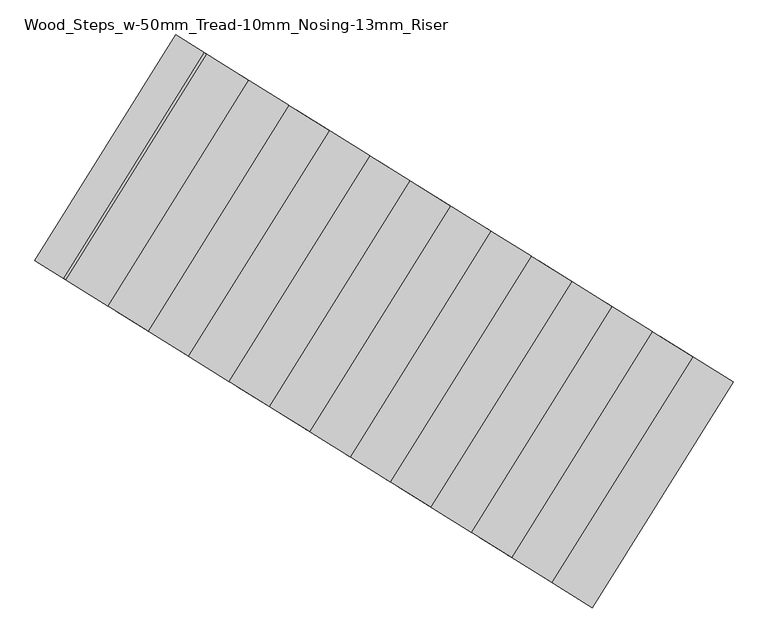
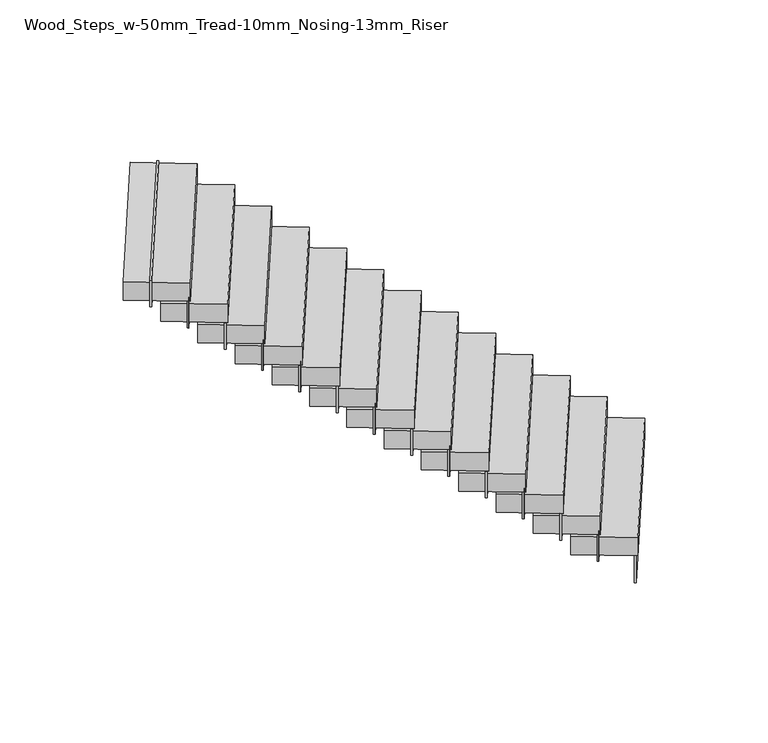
"""IFC4 building model written with IfcOpenShell, lengths in millimetres: stair flight geometry, Wood_Steps_w-50mm_Tread-10mm_Nosing-13mm_Riser."""

from ifc_helpers import new_model, si_unit, frame, origin, place, context, project, spatial, polyline, outline, extrude, source, transform, mapped, element, save


def wood_steps_w_50mm_tread_10mm_nosing_13mm_riser_bbbc8e6f(model_context):
    return source(origin(), model_context, "Body", "SweptSolid", [
        extrude(outline(polyline([(18114.6642275, 11392.629594), (18125.2738495, 11386.0200616), (17386.2064907, 10199.6690687), (17375.5968686, 10206.2786011), (18114.6642275, 11392.629594)])), frame((0.0, 0.0, 3433.8709677), z_axis=(0.0, 0.0, 1.0), x_axis=(1.0, 0.0, 0.0)), (0.0, 0.0, 1.0), 217.7419355),
        extrude(outline(polyline([(17902.4717857, 11524.8202429), (17913.0814078, 11518.2107104), (17174.0140489, 10331.8597176), (17163.4044268, 10338.46925), (17902.4717857, 11524.8202429)])), frame((0.0, 0.0, 3601.6129032), z_axis=(0.0, 0.0, 1.0), x_axis=(1.0, 0.0, 0.0)), (0.0, 0.0, 1.0), 217.7419355),
        extrude(outline(polyline([(17690.2793439, 11657.0108917), (17700.888966, 11650.4013593), (16961.8216071, 10464.0503664), (16951.211985, 10470.6598989), (17690.2793439, 11657.0108917)])), frame((0.0, 0.0, 3769.3548387), z_axis=(0.0, 0.0, 1.0), x_axis=(1.0, 0.0, 0.0)), (0.0, 0.0, 1.0), 217.7419355),
        extrude(outline(polyline([(17478.0869021, 11789.2015406), (17488.6965242, 11782.5920081), (16749.6291653, 10596.2410153), (16739.0195432, 10602.8505477), (17478.0869021, 11789.2015406)])), frame((0.0, 0.0, 3937.0967742), z_axis=(0.0, 0.0, 1.0), x_axis=(1.0, 0.0, 0.0)), (0.0, 0.0, 1.0), 217.7419355),
        extrude(outline(polyline([(17265.8944603, 11921.3921894), (17276.5040824, 11914.782657), (16537.4367235, 10728.4316641), (16526.8271015, 10735.0411966), (17265.8944603, 11921.3921894)])), frame((0.0, 0.0, 4104.8387097), z_axis=(0.0, 0.0, 1.0), x_axis=(1.0, 0.0, 0.0)), (0.0, 0.0, 1.0), 217.7419355),
        extrude(outline(polyline([(17053.7020185, 12053.5828383), (17064.3116406, 12046.9733059), (16325.2442817, 10860.622313), (16314.6346597, 10867.2318454), (17053.7020185, 12053.5828383)])), frame((0.0, 0.0, 4272.5806452), z_axis=(0.0, 0.0, 1.0), x_axis=(1.0, 0.0, 0.0)), (0.0, 0.0, 1.0), 217.7419355),
        extrude(outline(polyline([(16841.5095767, 12185.7734872), (16852.1191988, 12179.1639547), (16113.05184, 10992.8129619), (16102.4422179, 10999.4224943), (16841.5095767, 12185.7734872)])), frame((0.0, 0.0, 4440.3225806), z_axis=(0.0, 0.0, 1.0), x_axis=(1.0, 0.0, 0.0)), (0.0, 0.0, 1.0), 217.7419355),
        extrude(outline(polyline([(16629.3171349, 12317.964136), (16639.926757, 12311.3546036), (15900.8593982, 11125.0036107), (15890.2497761, 11131.6131432), (16629.3171349, 12317.964136)])), frame((0.0, 0.0, 4608.0645161), z_axis=(0.0, 0.0, 1.0), x_axis=(1.0, 0.0, 0.0)), (0.0, 0.0, 1.0), 217.7419355),
        extrude(outline(polyline([(16417.1246931, 12450.1547849), (16427.7343152, 12443.5452524), (15688.6669564, 11257.1942596), (15678.0573343, 11263.803792), (16417.1246931, 12450.1547849)])), frame((0.0, 0.0, 4775.8064516), z_axis=(0.0, 0.0, 1.0), x_axis=(1.0, 0.0, 0.0)), (0.0, 0.0, 1.0), 217.7419355),
        extrude(outline(polyline([(16204.9322513, 12582.3454337), (16215.5418734, 12575.7359013), (15476.4745146, 11389.3849084), (15465.8648925, 11395.9944409), (16204.9322513, 12582.3454337)])), frame((0.0, 0.0, 4943.5483871), z_axis=(0.0, 0.0, 1.0), x_axis=(1.0, 0.0, 0.0)), (0.0, 0.0, 1.0), 217.7419355),
        extrude(outline(polyline([(15992.7398095, 12714.5360826), (16003.3494316, 12707.9265502), (15264.2820728, 11521.5755573), (15253.6724507, 11528.1850897), (15992.7398095, 12714.5360826)])), frame((0.0, 0.0, 5111.2903226), z_axis=(0.0, 0.0, 1.0), x_axis=(1.0, 0.0, 0.0)), (0.0, 0.0, 1.0), 217.7419355),
        extrude(outline(polyline([(15780.5473677, 12846.7267315), (15791.1569898, 12840.117199), (15052.089631, 11653.7662062), (15041.4800089, 11660.3757386), (15780.5473677, 12846.7267315)])), frame((0.0, 0.0, 5279.0322581), z_axis=(0.0, 0.0, 1.0), x_axis=(1.0, 0.0, 0.0)), (0.0, 0.0, 1.0), 217.7419355),
        extrude(outline(polyline([(15568.3549259, 12978.9173803), (15578.964548, 12972.3078479), (14839.8971892, 11785.956855), (14829.2875671, 11792.5663875), (15568.3549259, 12978.9173803)])), frame((0.0, 0.0, 5446.7741935), z_axis=(0.0, 0.0, 1.0), x_axis=(1.0, 0.0, 0.0)), (0.0, 0.0, 1.0), 217.7419355),
        extrude(outline(polyline([(15356.1624842, 13111.1080292), (15366.7721062, 13104.4984967), (14627.7047474, 11918.1475039), (14617.0951253, 11924.7570363), (15356.1624842, 13111.1080292)])), frame((0.0, 0.0, 5614.516129), z_axis=(0.0, 0.0, 1.0), x_axis=(1.0, 0.0, 0.0)), (0.0, 0.0, 1.0), 217.7419355),
        extrude(outline(polyline([(17751.815152, 11618.6756035), (18133.7615472, 11380.7324356), (17394.6941884, 10194.3814427), (17012.7477932, 10432.3246107), (17751.815152, 11618.6756035)])), frame((0.0, 0.0, 3651.6129032), z_axis=(0.0, 0.0, 1.0), x_axis=(1.0, 0.0, 0.0)), (0.0, 0.0, 1.0), 150.0),
        extrude(outline(polyline([(17539.6227102, 11750.8662524), (17921.5691054, 11512.9230845), (17182.5017466, 10326.5720916), (16800.5553514, 10564.5152596), (17539.6227102, 11750.8662524)])), frame((0.0, 0.0, 3819.3548387), z_axis=(0.0, 0.0, 1.0), x_axis=(1.0, 0.0, 0.0)), (0.0, 0.0, 1.0), 150.0),
        extrude(outline(polyline([(17327.4302684, 11883.0569013), (17709.3766636, 11645.1137333), (16970.3093048, 10458.7627405), (16588.3629096, 10696.7059084), (17327.4302684, 11883.0569013)])), frame((0.0, 0.0, 3987.0967742), z_axis=(0.0, 0.0, 1.0), x_axis=(1.0, 0.0, 0.0)), (0.0, 0.0, 1.0), 150.0),
        extrude(outline(polyline([(17115.2378266, 12015.2475501), (17497.1842218, 11777.3043822), (16758.116863, 10590.9533893), (16376.1704678, 10828.8965573), (17115.2378266, 12015.2475501)])), frame((0.0, 0.0, 4154.8387097), z_axis=(0.0, 0.0, 1.0), x_axis=(1.0, 0.0, 0.0)), (0.0, 0.0, 1.0), 150.0),
        extrude(outline(polyline([(16903.0453848, 12147.438199), (17284.99178, 11909.495031), (16545.9244212, 10723.1440382), (16163.978026, 10961.0872061), (16903.0453848, 12147.438199)])), frame((0.0, 0.0, 4322.5806452), z_axis=(0.0, 0.0, 1.0), x_axis=(1.0, 0.0, 0.0)), (0.0, 0.0, 1.0), 150.0),
        extrude(outline(polyline([(16690.852943, 12279.6288478), (17072.7993383, 12041.6856799), (16333.7319794, 10855.334687), (15951.7855842, 11093.277855), (16690.852943, 12279.6288478)])), frame((0.0, 0.0, 4490.3225806), z_axis=(0.0, 0.0, 1.0), x_axis=(1.0, 0.0, 0.0)), (0.0, 0.0, 1.0), 150.0),
        extrude(outline(polyline([(16478.6605012, 12411.8194967), (16860.6068965, 12173.8763288), (16121.5395376, 10987.5253359), (15739.5931424, 11225.4685039), (16478.6605012, 12411.8194967)])), frame((0.0, 0.0, 4658.0645161), z_axis=(0.0, 0.0, 1.0), x_axis=(1.0, 0.0, 0.0)), (0.0, 0.0, 1.0), 150.0),
        extrude(outline(polyline([(16266.4680594, 12544.0101456), (16648.4144547, 12306.0669776), (15909.3470958, 11119.7159848), (15527.4007006, 11357.6591527), (16266.4680594, 12544.0101456)])), frame((0.0, 0.0, 4825.8064516), z_axis=(0.0, 0.0, 1.0), x_axis=(1.0, 0.0, 0.0)), (0.0, 0.0, 1.0), 150.0),
        extrude(outline(polyline([(16054.2756176, 12676.2007944), (16436.2220129, 12438.2576265), (15697.154654, 11251.9066336), (15315.2082588, 11489.8498016), (16054.2756176, 12676.2007944)])), frame((0.0, 0.0, 4993.5483871), z_axis=(0.0, 0.0, 1.0), x_axis=(1.0, 0.0, 0.0)), (0.0, 0.0, 1.0), 150.0),
        extrude(outline(polyline([(15842.0831759, 12808.3914433), (16224.0295711, 12570.4482753), (15484.9622122, 11384.0972825), (15103.015817, 11622.0404504), (15842.0831759, 12808.3914433)])), frame((0.0, 0.0, 5161.2903226), z_axis=(0.0, 0.0, 1.0), x_axis=(1.0, 0.0, 0.0)), (0.0, 0.0, 1.0), 150.0),
        extrude(outline(polyline([(15629.8907341, 12940.5820921), (16011.8371293, 12702.6389242), (15272.7697705, 11516.2879313), (14890.8233752, 11754.2310993), (15629.8907341, 12940.5820921)])), frame((0.0, 0.0, 5329.0322581), z_axis=(0.0, 0.0, 1.0), x_axis=(1.0, 0.0, 0.0)), (0.0, 0.0, 1.0), 150.0),
        extrude(outline(polyline([(15417.6982923, 13072.772741), (15799.6446875, 12834.8295731), (15060.5773287, 11648.4785802), (14678.6309334, 11886.4217482), (15417.6982923, 13072.772741)])), frame((0.0, 0.0, 5496.7741935), z_axis=(0.0, 0.0, 1.0), x_axis=(1.0, 0.0, 0.0)), (0.0, 0.0, 1.0), 150.0),
        extrude(outline(polyline([(15205.5058505, 13204.9633899), (15587.4522457, 12967.0202219), (14848.3848869, 11780.6692291), (14466.4384916, 12018.612397), (15205.5058505, 13204.9633899)])), frame((0.0, 0.0, 5664.516129), z_axis=(0.0, 0.0, 1.0), x_axis=(1.0, 0.0, 0.0)), (0.0, 0.0, 1.0), 150.0),
    ])


if __name__ == "__main__":
    model = new_model("IFC4")
    model_context = context("Model", 3, world=origin())
    ifc_project = project(units=[si_unit("LENGTHUNIT", "METRE", prefix="MILLI")], contexts=[model_context])
    site = spatial("IfcSite", under=ifc_project)
    building = spatial("IfcBuilding", under=site)
    placement = place(None, origin())
    wood_steps_w_50mm_tread_10mm_nosing_13mm_riser_shape = wood_steps_w_50mm_tread_10mm_nosing_13mm_riser_bbbc8e6f(model_context)
    element("IfcStairFlight", 1, ObjectType="Wood_Steps_w-50mm_Tread-10mm_Nosing-13mm_Riser", at=placement, inside=building, context=model_context, shape_type="MappedRepresentation", body=[
        mapped(wood_steps_w_50mm_tread_10mm_nosing_13mm_riser_shape, transform((0.0, 0.0, 0.0), x_axis=(1.0, 0.0, 0.0), y_axis=(0.0, 1.0, 0.0), z_axis=(0.0, 0.0, 1.0))),
    ])
    save(model, "model.ifc")
